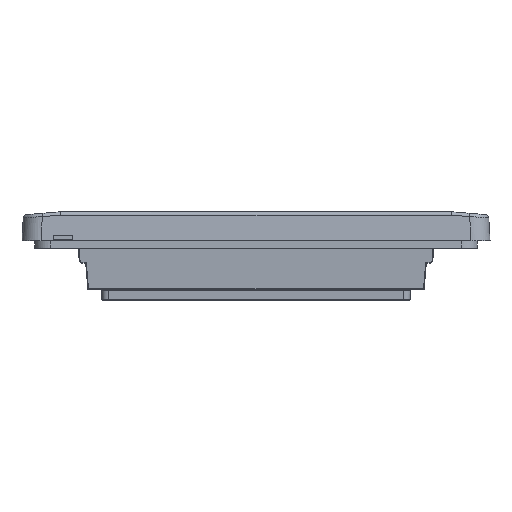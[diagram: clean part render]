
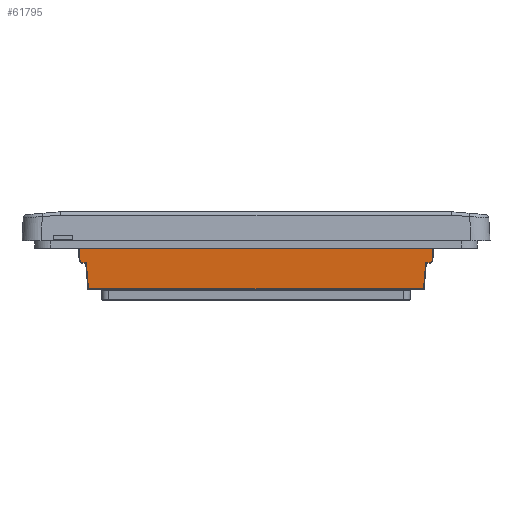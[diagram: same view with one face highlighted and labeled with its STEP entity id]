
A CAD part, front view. The second image highlights one B-rep face of the part: STEP entity #61795.
In plain terms, the highlighted free-form (B-spline) face has degree [1, 1] with [2, 2] control points.
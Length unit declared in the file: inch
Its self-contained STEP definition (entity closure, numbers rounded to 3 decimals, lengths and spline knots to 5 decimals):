
#60429=CARTESIAN_POINT('V1041',(-1.63965,
   -12.11189,0.00948));
#60430=VERTEX_POINT('V1041',#60429);
#60541=CARTESIAN_POINT('V1042',(-1.60378,
   -12.13338,0.41948));
#60542=VERTEX_POINT('V1042',#60541);
#60553=CARTESIAN_POINT('V1050',(-1.55142,
   -12.13338,0.41948));
#60554=VERTEX_POINT('V1050',#60553);
#60555=CARTESIAN_POINT('E1847',(-1.55142,
   -12.13338,0.41948));
#60556=CARTESIAN_POINT('E1847',(-1.60378,
   -12.13338,0.41948));
#60557=B_SPLINE_CURVE_WITH_KNOTS('E1847',1,(#60555,#60556),
   .POLYLINE_FORM.,.F.,.U.,(2,2),(2.,
   5.44846),.UNSPECIFIED.);
#60558=EDGE_CURVE('E1847',#60554,#60542,#60557,.T.);
#60611=CARTESIAN_POINT('V1049',(-1.50149,
   -12.13586,0.46686));
#60612=VERTEX_POINT('V1049',#60611);
#60613=CARTESIAN_POINT('E1846',(-1.50149,
   -12.13586,0.46686));
#60614=CARTESIAN_POINT('E1846',(-1.50182,
   -12.13553,0.46055));
#60615=CARTESIAN_POINT('E1846',(-1.5049,
   -12.13487,0.44804));
#60616=CARTESIAN_POINT('E1846',(-1.51615,
   -12.13405,0.43234));
#60617=CARTESIAN_POINT('E1846',(-1.53242,
   -12.1335,0.42191));
#60618=CARTESIAN_POINT('E1846',(-1.54509,
   -12.13338,0.41948));
#60619=CARTESIAN_POINT('E1846',(-1.55142,
   -12.13338,0.41948));
#60620=B_SPLINE_CURVE_WITH_KNOTS('E1846',3,(#60613,#60614,#60615,
   #60616,#60617,#60618,#60619),.UNSPECIFIED.,.F.,.U.,(4,1,1,1,4),(
   2.0,3.21085,4.42163,5.63243,
   6.84317),.UNSPECIFIED.);
#60621=EDGE_CURVE('E1846',#60612,#60554,#60620,.T.);
#60741=CARTESIAN_POINT('V1047',(-7.06465,
   -12.15125,0.76052));
#60742=VERTEX_POINT('V1047',#60741);
#60751=CARTESIAN_POINT('V1046',(-7.04926,
   -12.13586,0.46686));
#60752=VERTEX_POINT('V1046',#60751);
#60753=CARTESIAN_POINT('E1843',(-7.04926,
   -12.13586,0.46686));
#60754=CARTESIAN_POINT('E1843',(-7.06465,
   -12.15125,0.76052));
#60755=B_SPLINE_CURVE_WITH_KNOTS('E1843',1,(#60753,#60754),
   .POLYLINE_FORM.,.F.,.U.,(2,2),(2.0,20.77922),
   .UNSPECIFIED.);
#60756=EDGE_CURVE('E1843',#60752,#60742,#60755,.T.);
#60804=CARTESIAN_POINT('V1045',(-6.99933,
   -12.13338,0.41948));
#60805=VERTEX_POINT('V1045',#60804);
#60821=CARTESIAN_POINT('E1842',(-6.99933,
   -12.13338,0.41948));
#60822=CARTESIAN_POINT('E1842',(-7.00565,
   -12.13338,0.41948));
#60823=CARTESIAN_POINT('E1842',(-7.01832,
   -12.1335,0.42191));
#60824=CARTESIAN_POINT('E1842',(-7.03459,
   -12.13405,0.43234));
#60825=CARTESIAN_POINT('E1842',(-7.04584,
   -12.13487,0.44804));
#60826=CARTESIAN_POINT('E1842',(-7.04893,
   -12.13553,0.46055));
#60827=CARTESIAN_POINT('E1842',(-7.04926,
   -12.13586,0.46686));
#60828=B_SPLINE_CURVE_WITH_KNOTS('E1842',3,(#60821,#60822,#60823,
   #60824,#60825,#60826,#60827),.UNSPECIFIED.,.F.,.U.,(4,1,1,1,4),(
   2.0,3.21074,4.42154,5.63232,
   6.84317),.UNSPECIFIED.);
#60829=EDGE_CURVE('E1842',#60805,#60752,#60828,.T.);
#60856=CARTESIAN_POINT('V1044',(-6.94696,
   -12.13338,0.41948));
#60857=VERTEX_POINT('V1044',#60856);
#60874=CARTESIAN_POINT('E1841',(-6.94696,
   -12.13338,0.41948));
#60875=CARTESIAN_POINT('E1841',(-6.99933,
   -12.13338,0.41948));
#60876=B_SPLINE_CURVE_WITH_KNOTS('E1841',1,(#60874,#60875),
   .POLYLINE_FORM.,.F.,.U.,(2,2),(2.,
   5.44846),.UNSPECIFIED.);
#60877=EDGE_CURVE('E1841',#60857,#60805,#60876,.T.);
#60911=CARTESIAN_POINT('V1043',(-6.91109,
   -12.11189,0.00948));
#60912=VERTEX_POINT('V1043',#60911);
#60913=CARTESIAN_POINT('E1840',(-6.91109,
   -12.11189,0.00948));
#60914=CARTESIAN_POINT('E1840',(-6.94696,
   -12.13338,0.41948));
#60915=B_SPLINE_CURVE_WITH_KNOTS('E1840',1,(#60913,#60914),
   .POLYLINE_FORM.,.F.,.U.,(2,2),(2.58585,
   28.89906),.UNSPECIFIED.);
#60916=EDGE_CURVE('E1840',#60912,#60857,#60915,.T.);
#61341=CARTESIAN_POINT('V1048',(-1.4861,
   -12.15125,0.76052));
#61342=VERTEX_POINT('V1048',#61341);
#61356=CARTESIAN_POINT('E1844',(-7.06465,
   -12.15125,0.76052));
#61357=CARTESIAN_POINT('E1844',(-1.4861,
   -12.15125,0.76052));
#61358=QUASI_UNIFORM_CURVE('E1844',1,(#61356,#61357),.POLYLINE_FORM.,
   .F.,.U.);
#61359=EDGE_CURVE('E1844',#60742,#61342,#61358,.T.);
#61451=CARTESIAN_POINT('E1845',(-1.4861,
   -12.15125,0.76052));
#61452=CARTESIAN_POINT('E1845',(-1.50149,
   -12.13586,0.46686));
#61453=B_SPLINE_CURVE_WITH_KNOTS('E1845',1,(#61451,#61452),
   .POLYLINE_FORM.,.F.,.U.,(2,2),(2.0,20.77922),
   .UNSPECIFIED.);
#61454=EDGE_CURVE('E1845',#61342,#60612,#61453,.T.);
#61764=CARTESIAN_POINT('E1838',(-1.60378,
   -12.13338,0.41948));
#61765=CARTESIAN_POINT('E1838',(-1.63965,
   -12.11189,0.00948));
#61766=B_SPLINE_CURVE_WITH_KNOTS('E1838',1,(#61764,#61765),
   .POLYLINE_FORM.,.F.,.U.,(2,2),(2.58585,
   28.89906),.UNSPECIFIED.);
#61767=EDGE_CURVE('E1838',#60542,#60430,#61766,.T.);
#61774=CARTESIAN_POINT('F763',(-7.22456,
   -12.15726,0.87511));
#61775=CARTESIAN_POINT('F763',(-1.32618,
   -12.15726,0.87511));
#61776=CARTESIAN_POINT('F763',(-7.22456,
   -12.11119,-0.00393));
#61777=CARTESIAN_POINT('F763',(-1.32618,
   -12.11119,-0.00393));
#61778=B_SPLINE_SURFACE_WITH_KNOTS('F763',1,1,((#61774,#61776),(
   #61775,#61777)),.PLANE_SURF.,.F.,.F.,.U.,(2,2),(2,2),(0.0,
   6.7008),(0.0,1.0),.UNSPECIFIED.);
#61779=ORIENTED_EDGE('E1838',*,*,#61767,.T.);
#61780=CARTESIAN_POINT('E1839',(-1.63965,
   -12.11189,0.00948));
#61781=CARTESIAN_POINT('E1839',(-6.91109,
   -12.11189,0.00948));
#61782=QUASI_UNIFORM_CURVE('E1839',1,(#61780,#61781),.POLYLINE_FORM.,
   .F.,.U.);
#61783=EDGE_CURVE('E1839',#60430,#60912,#61782,.T.);
#61784=ORIENTED_EDGE('E1839',*,*,#61783,.T.);
#61785=ORIENTED_EDGE('E1840',*,*,#60916,.T.);
#61786=ORIENTED_EDGE('F1390',*,*,#60877,.T.);
#61787=ORIENTED_EDGE('F1389',*,*,#60829,.T.);
#61788=ORIENTED_EDGE('E1843',*,*,#60756,.T.);
#61789=ORIENTED_EDGE('E1844',*,*,#61359,.T.);
#61790=ORIENTED_EDGE('F1036',*,*,#61454,.T.);
#61791=ORIENTED_EDGE('E1846',*,*,#60621,.T.);
#61792=ORIENTED_EDGE('E1847',*,*,#60558,.T.);
#61793=EDGE_LOOP('F763',(#61779,#61784,#61785,#61786,#61787,#61788,
   #61789,#61790,#61791,#61792));
#61794=FACE_OUTER_BOUND('F763',#61793,.F.);
#61795=ADVANCED_FACE('F763',(#61794),#61778,.F.);
